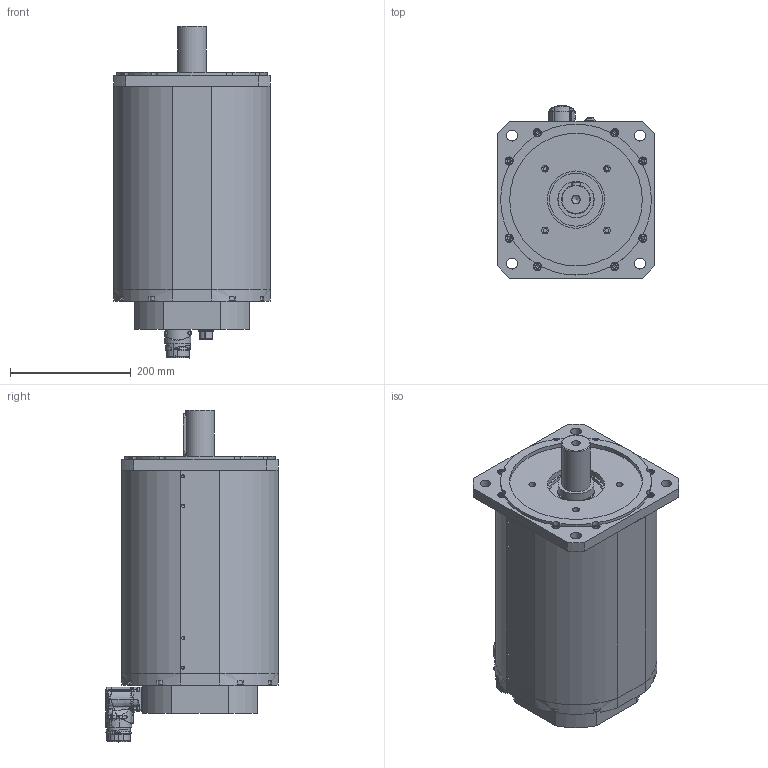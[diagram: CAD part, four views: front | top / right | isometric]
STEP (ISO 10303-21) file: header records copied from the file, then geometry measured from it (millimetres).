
FILE_DESCRIPTION(/* description */ (''),/* implementation_level */ '2;1');
FILE_NAME(/* name */ 'C:\Users\Public\Documents\Autodesk\Inventor LT 2014\Workspace\Motori Sito WEB\TG_7\NEW TG_7\DSM5_73_x099.stp',/* time_stamp */ '2021-10-28T12:53:29+02:00',/* author */ ('marcor'),/* organization */ (''),/* preprocessor_version */ 'ST-DEVELOPER v15.2',/* originating_system */ 'Autodesk Inventor LT ',/* authorisation */ '');
FILE_SCHEMA (('AUTOMOTIVE_DESIGN { 1 0 10303 214 3 1 1 }'));
Products named in the file (1): DSM5_73_x099
Bounding box: 260 x 286.55 x 550.4 mm (x, y, z)
Volume: 22751975.8 mm3; surface area: 863054.8 mm2
Topology: 24 solids, 33 shells, 1874 faces, 4868 edges, 3186 vertices
Faces by surface type: plane 822, cylinder 409, cone 390, bspline 137, torus 99, sphere 17
Full cylindrical faces by diameter (mm): 1.2 x12, 2 x2, 2.224 x4, 2.5 x4, 2.88 x4, 3.26 x4, 3.6 x5, 4 x5, 4.5 x1, 4.8 x4, 4.917 x20, 5.4 x1, 5.5 x1, 5.9 x1, 6 x12, 6.5 x16, 6.647 x8, 7 x4, 8 x11, 8.376 x2, 8.5 x9, 10 x12, 11 x8, 13 x8, 13.5 x8, 13.835 x1, 15.2 x1, 17.4 x2, 18 x5, 20 x1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
Entity records: 62166 total; most frequent: CARTESIAN_POINT 18595, ORIENTED_EDGE 8518, DIRECTION 8274, EDGE_CURVE 4259, AXIS2_PLACEMENT_3D 3275, VERTEX_POINT 3019, EDGE_LOOP 2522, ADVANCED_FACE 1874
